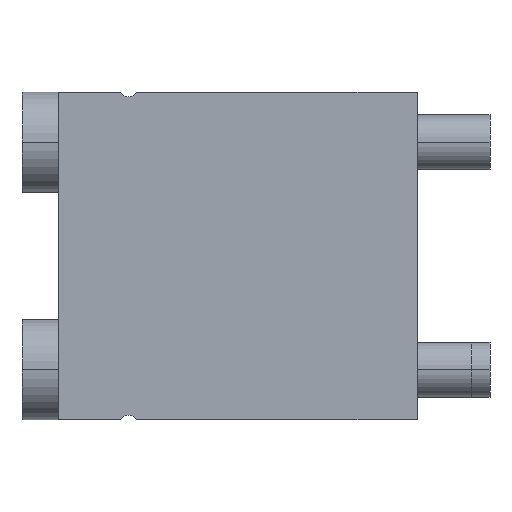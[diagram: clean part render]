
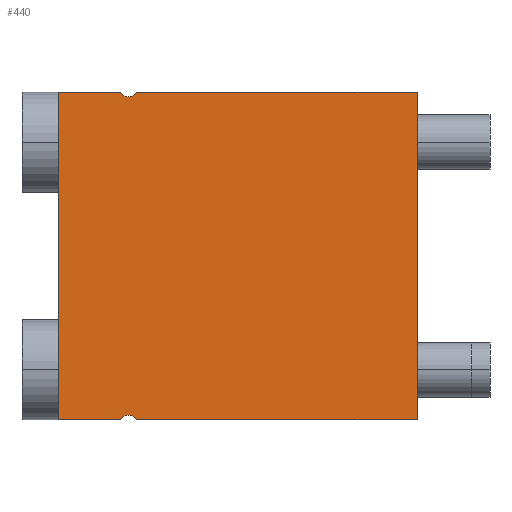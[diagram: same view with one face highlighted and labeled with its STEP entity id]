
A CAD part, left-side view. The second image highlights one B-rep face of the part: STEP entity #440.
In plain terms, the highlighted planar face has unit normal (-1, 0, 0).
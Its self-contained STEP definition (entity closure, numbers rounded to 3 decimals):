
#14=DIRECTION('',(0.,-1.,0.));
#15=VECTOR('',#14,15.417);
#16=CARTESIAN_POINT('',(-25.5,5.567,0.));
#17=LINE('2097',#16,#15);
#22=DIRECTION('',(0.,-1.,0.));
#23=VECTOR('',#22,3.417);
#24=CARTESIAN_POINT('',(-25.5,9.85,0.));
#25=LINE('2096',#24,#23);
#38=CARTESIAN_POINT('',(-25.5,6.,0.25));
#39=DIRECTION('',(1.,0.,0.));
#40=DIRECTION('',(0.,-0.866,-0.5));
#41=AXIS2_PLACEMENT_3D('',#38,#39,#40);
#43=CARTESIAN_POINT('',(-25.5,6.,-18.25));
#44=DIRECTION('',(1.,0.,0.));
#45=DIRECTION('',(0.,0.866,0.5));
#46=AXIS2_PLACEMENT_3D('',#43,#44,#45);
#48=DIRECTION('',(0.,0.,-1.));
#49=VECTOR('',#48,18.);
#50=CARTESIAN_POINT('',(-25.5,9.85,0.));
#51=LINE('98',#50,#49);
#52=DIRECTION('',(0.,0.,-1.));
#53=VECTOR('',#52,18.);
#54=CARTESIAN_POINT('',(-25.5,-9.85,0.));
#55=LINE('100',#54,#53);
#198=DIRECTION('',(0.,-1.,0.));
#199=VECTOR('',#198,3.417);
#200=CARTESIAN_POINT('',(-25.5,9.85,-18.));
#201=LINE('2100',#200,#199);
#218=DIRECTION('',(0.,-1.,0.));
#219=VECTOR('',#218,15.417);
#220=CARTESIAN_POINT('',(-25.5,5.567,-18.));
#221=LINE('2101',#220,#219);
#288=CARTESIAN_POINT('',(-25.5,-9.85,0.));
#290=VERTEX_POINT('',#288);
#292=CARTESIAN_POINT('',(-25.5,-9.85,-18.));
#294=VERTEX_POINT('',#292);
#296=CARTESIAN_POINT('',(-25.5,9.85,0.));
#297=CARTESIAN_POINT('',(-25.5,9.85,-18.));
#298=VERTEX_POINT('',#296);
#299=VERTEX_POINT('',#297);
#356=CARTESIAN_POINT('',(-25.5,5.567,0.));
#358=VERTEX_POINT('',#356);
#360=CARTESIAN_POINT('',(-25.5,6.433,0.));
#362=VERTEX_POINT('',#360);
#364=CARTESIAN_POINT('',(-25.5,6.433,-18.));
#365=VERTEX_POINT('',#364);
#366=CARTESIAN_POINT('',(-25.5,5.567,-18.));
#367=VERTEX_POINT('',#366);
#420=CARTESIAN_POINT('',(-25.5,9.85,0.));
#421=DIRECTION('',(-1.,0.,0.));
#422=DIRECTION('',(0.,-1.,0.));
#423=AXIS2_PLACEMENT_3D('',#420,#421,#422);
#424=PLANE('97',#423);
#425=ORIENTED_EDGE('2092',*,*,#412,.F.);
#426=ORIENTED_EDGE('2097',*,*,#383,.T.);
#428=ORIENTED_EDGE('100',*,*,#427,.T.);
#430=ORIENTED_EDGE('2101',*,*,#429,.F.);
#432=ORIENTED_EDGE('2125',*,*,#431,.F.);
#434=ORIENTED_EDGE('2100',*,*,#433,.F.);
#436=ORIENTED_EDGE('98',*,*,#435,.F.);
#437=ORIENTED_EDGE('2096',*,*,#395,.T.);
#438=EDGE_LOOP('97',(#425,#426,#428,#430,#432,#434,#436,#437));
#439=FACE_OUTER_BOUND('97',#438,.F.);
#440=ADVANCED_FACE('97',(#439),#424,.T.);
#42=CIRCLE('2092',#41,0.5);
#47=CIRCLE('2125',#46,0.5);
#383=EDGE_CURVE('2097',#358,#290,#17,.T.);
#395=EDGE_CURVE('2096',#298,#362,#25,.T.);
#412=EDGE_CURVE('2092',#358,#362,#42,.T.);
#427=EDGE_CURVE('100',#290,#294,#55,.T.);
#429=EDGE_CURVE('2101',#367,#294,#221,.T.);
#431=EDGE_CURVE('2125',#365,#367,#47,.T.);
#433=EDGE_CURVE('2100',#299,#365,#201,.T.);
#435=EDGE_CURVE('98',#298,#299,#51,.T.);
